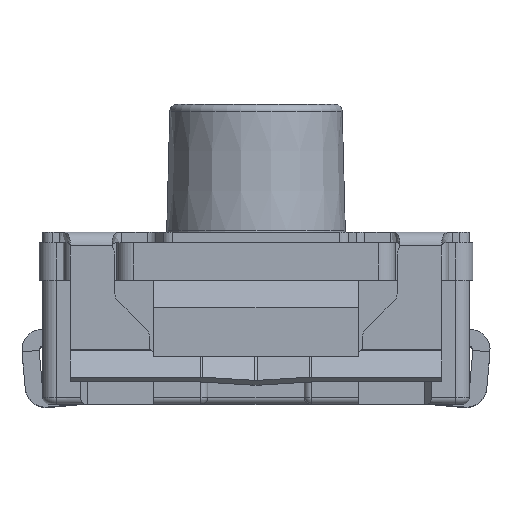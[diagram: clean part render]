
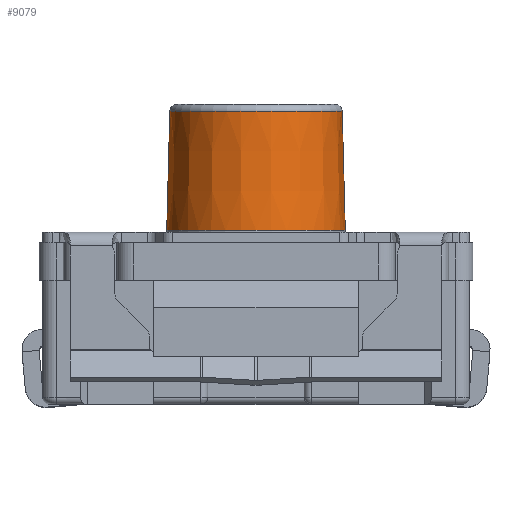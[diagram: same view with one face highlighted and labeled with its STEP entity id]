
A CAD part, top view. The second image highlights one B-rep face of the part: STEP entity #9079.
In plain terms, the highlighted conical face has half-angle 1.457 degrees and reference radius 1.296 mm.
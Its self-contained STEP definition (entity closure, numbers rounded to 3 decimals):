
#940 = EDGE_CURVE ( 'NONE', #5761, #4039, #12834, .T. ) ;
#1076 = CARTESIAN_POINT ( 'NONE',  ( -1.252, 5.263, 0. ) ) ;
#1716 = VERTEX_POINT ( 'NONE', #1076 ) ;
#2189 = CARTESIAN_POINT ( 'NONE',  ( 0., 3.53, 0. ) ) ;
#2408 = DIRECTION ( 'NONE',  ( 1., 0., 0. ) ) ;
#2791 = AXIS2_PLACEMENT_3D ( 'NONE', #11351, #4285, #2408 ) ;
#3485 = LINE ( 'NONE', #7536, #8085 ) ;
#3855 = CONICAL_SURFACE ( 'NONE', #2791, 1.297, 0.025 ) ;
#4039 = VERTEX_POINT ( 'NONE', #7082 ) ;
#4285 = DIRECTION ( 'NONE',  ( 0., -1., 0. ) ) ;
#4330 = ORIENTED_EDGE ( 'NONE', *, *, #6478, .T. ) ;
#5425 = EDGE_LOOP ( 'NONE', ( #11650, #4330, #9267, #8546 ) ) ;
#5467 = CARTESIAN_POINT ( 'NONE',  ( 1.297, 3.53, 0. ) ) ;
#5606 = AXIS2_PLACEMENT_3D ( 'NONE', #2189, #9178, #13175 ) ;
#5611 = DIRECTION ( 'NONE',  ( -0.025, -1., 0. ) ) ;
#5761 = VERTEX_POINT ( 'NONE', #5467 ) ;
#5762 = AXIS2_PLACEMENT_3D ( 'NONE', #7938, #8007, #8076 ) ;
#6478 = EDGE_CURVE ( 'NONE', #1716, #4039, #3485, .T. ) ;
#6626 = VECTOR ( 'NONE', #9514, 1000. ) ;
#7082 = CARTESIAN_POINT ( 'NONE',  ( -1.297, 3.53, 0. ) ) ;
#7536 = CARTESIAN_POINT ( 'NONE',  ( -1.297, 3.53, 0. ) ) ;
#7641 = LINE ( 'NONE', #8704, #6626 ) ;
#7938 = CARTESIAN_POINT ( 'NONE',  ( 0., 5.263, 0. ) ) ;
#8007 = DIRECTION ( 'NONE',  ( 0., -1., 0. ) ) ;
#8076 = DIRECTION ( 'NONE',  ( 1., 0., 0. ) ) ;
#8085 = VECTOR ( 'NONE', #5611, 1000. ) ;
#8470 = FACE_OUTER_BOUND ( 'NONE', #5425, .T. ) ;
#8500 = CARTESIAN_POINT ( 'NONE',  ( 1.252, 5.263, 0. ) ) ;
#8546 = ORIENTED_EDGE ( 'NONE', *, *, #9519, .F. ) ;
#8704 = CARTESIAN_POINT ( 'NONE',  ( 1.297, 3.53, 0. ) ) ;
#8867 = EDGE_CURVE ( 'NONE', #9954, #1716, #10238, .T. ) ;
#9079 = ADVANCED_FACE ( 'NONE', ( #8470 ), #3855, .T. ) ;
#9178 = DIRECTION ( 'NONE',  ( 0., -1., 0. ) ) ;
#9267 = ORIENTED_EDGE ( 'NONE', *, *, #940, .F. ) ;
#9514 = DIRECTION ( 'NONE',  ( 0.025, -1., 0. ) ) ;
#9519 = EDGE_CURVE ( 'NONE', #9954, #5761, #7641, .T. ) ;
#9954 = VERTEX_POINT ( 'NONE', #8500 ) ;
#10238 = CIRCLE ( 'NONE', #5762, 1.252 ) ;
#11351 = CARTESIAN_POINT ( 'NONE',  ( 0., 3.53, 0. ) ) ;
#11650 = ORIENTED_EDGE ( 'NONE', *, *, #8867, .T. ) ;
#12834 = CIRCLE ( 'NONE', #5606, 1.297 ) ;
#13175 = DIRECTION ( 'NONE',  ( 1., 0., 0. ) ) ;
